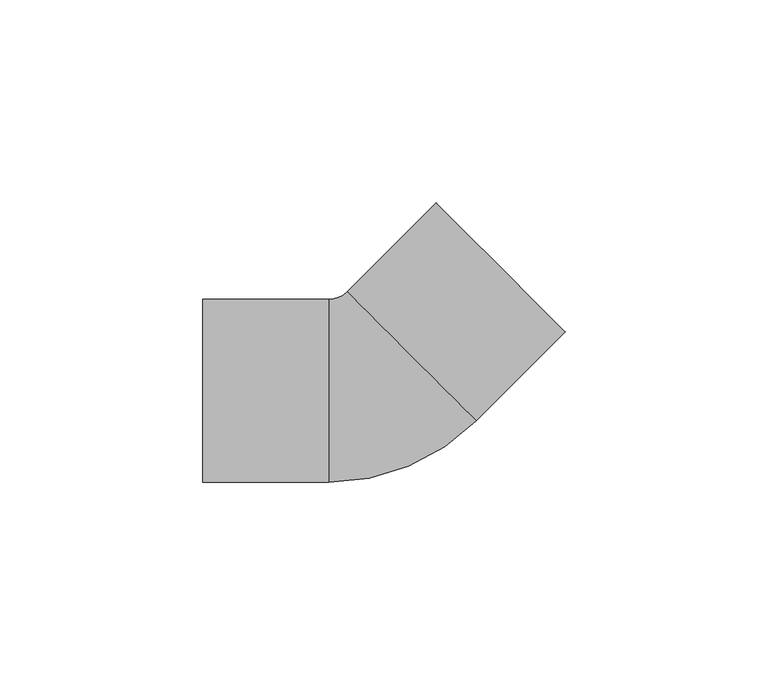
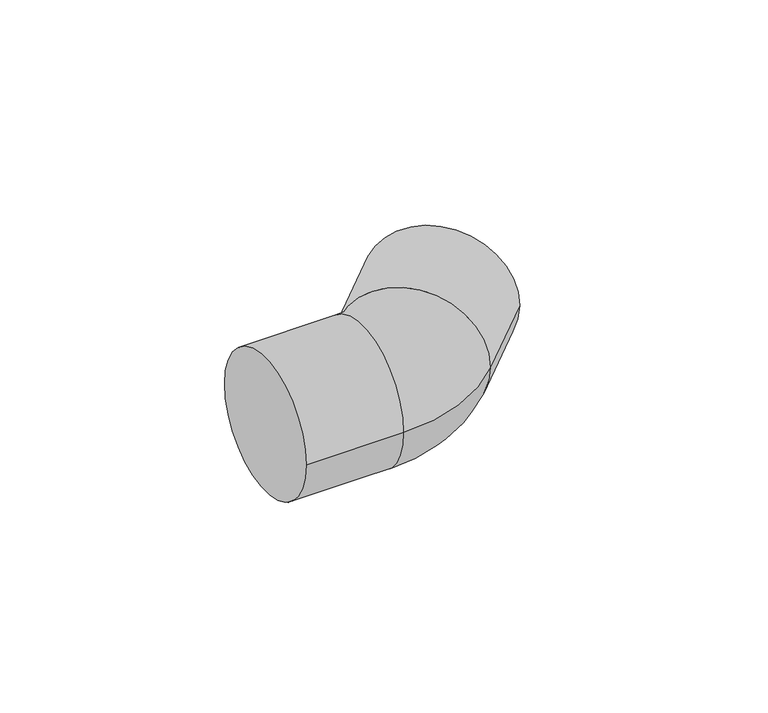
"""IFC4 building model written with IfcOpenShell, lengths in millimetres: pipe fitting geometry, 01051067 : Joelho a 45º."""

from ifc_helpers import new_model, si_unit, point, frame, origin, place, context, project, spatial, circle_curve, ellipse_curve, trimmed, source, transform, mapped, element, save
from ifc_brep_helpers import plane_surface, cylinder_surface, revolved_surface, advanced_brep


def pipe_fitting_5bd84670(model_context):
    return source(origin(), model_context, "Body", "AdvancedBrep", [
        advanced_brep(
        [(-43.0, -22.5, 0.0), (-43.0, 22.5, 0.0), (-12.0, -22.5, 0.0), (-12.0, 22.5, 0.0), (-7.4246212, 24.395184, 0.0), (24.395184, -7.4246212, 0.0), (46.3154942, 14.495689, 0.0), (14.495689, 46.3154942, 0.0)],
        [
            (0, 1, circle_curve(frame((-43.0, 0.0, 0.0), z_axis=(-1.0, 0.0, 0.0), x_axis=(0.0, 1.0, 0.0)), 22.5)),
            (1, 0, circle_curve(frame((-43.0, 0.0, 0.0), z_axis=(-1.0, 0.0, 0.0), x_axis=(0.0, 1.0, 0.0)), 22.5)),
            (0, 2),
            (2, 3, circle_curve(frame((-12.0, 0.0, 0.0), z_axis=(-1.0, 0.0, 0.0), x_axis=(0.0, 1.0, 0.0)), 22.5)),
            (3, 1),
            (3, 2, circle_curve(frame((-12.0, 0.0, 0.0), z_axis=(-1.0, 0.0, 0.0), x_axis=(0.0, 1.0, 0.0)), 22.5)),
            (4, 3, circle_curve(frame((-12.0, 28.9705627, 0.0), z_axis=(0.0, 0.0, -1.0), x_axis=(0.0, -1.0, 0.0)), 6.4705627)),
            (2, 5, circle_curve(frame((-12.0, 28.9705627, 0.0), z_axis=(0.0, 0.0, 1.0), x_axis=(0.0, -1.0, 0.0)), 51.4705627)),
            (5, 4, circle_curve(frame((8.4852814, 8.4852814, 0.0), z_axis=(-0.7071067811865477, -0.7071067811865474, 0.0), x_axis=(-0.7071067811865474, 0.7071067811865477, 0.0)), 22.5)),
            (4, 5, circle_curve(frame((8.4852814, 8.4852814, 0.0), z_axis=(-0.7071067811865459, -0.7071067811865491, 0.0), x_axis=(-0.7071067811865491, 0.7071067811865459, 0.0)), 22.5)),
            (6, 7, circle_curve(frame((30.4055916, 30.4055916, 0.0), z_axis=(0.7071067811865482, 0.7071067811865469, 0.0), x_axis=(-0.7071067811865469, 0.7071067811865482, 0.0)), 22.5)),
            (7, 6, circle_curve(frame((30.4055916, 30.4055916, 0.0), z_axis=(0.7071067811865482, 0.7071067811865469, 0.0), x_axis=(-0.7071067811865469, 0.7071067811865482, 0.0)), 22.5)),
            (5, 6),
            (7, 4),
        ],
        [
            plane_surface(frame((-43.0, 0.0, 0.0), z_axis=(-1.0, 0.0, 0.0), x_axis=(0.0, 0.0, 1.0))),
            cylinder_surface(frame((-43.0, 0.0, 0.0), z_axis=(-1.0, 0.0, 0.0), x_axis=(0.0, 1.0, 0.0)), 22.5),
            revolved_surface(trimmed(ellipse_curve(frame((-12.0, 0.0, 0.0), z_axis=(-1.0, 0.0, 0.0), x_axis=(0.0, 1.0, 0.0)), 22.5, 22.5), [point((-12.0, -22.5, 0.0))], [point((-12.0, 22.5, 0.0))], True, "CARTESIAN"), (-12.0, 28.9705627, 0.0), (0.0, 0.0, 1.0)),
            revolved_surface(trimmed(ellipse_curve(frame((-12.0, 0.0, 0.0), z_axis=(-1.0, 0.0, 0.0), x_axis=(0.0, 1.0, 0.0)), 22.5, 22.5), [point((-12.0, 22.5, 0.0))], [point((-12.0, -22.5, 0.0))], True, "CARTESIAN"), (-12.0, 28.9705627, 0.0), (0.0, 0.0, 1.0)),
            plane_surface(frame((30.4055916, 30.4055916, 0.0), z_axis=(0.7071067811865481, 0.7071067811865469, 0.0), x_axis=(0.0, 0.0, 1.0))),
            cylinder_surface(frame((8.4852814, 8.4852814, 0.0), z_axis=(-0.7071067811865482, -0.7071067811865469, 0.0), x_axis=(-0.7071067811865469, 0.7071067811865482, 0.0)), 22.5),
        ],
        [
            (0, [[1, 2]]),
            (1, [[-1, 3, 4, 5]]),
            (1, [[-2, -5, 6, -3]]),
            (2, [[7, -4, 8, 9]]),
            (3, [[-8, -6, -7, 10]]),
            (4, [[11, 12]]),
            (5, [[-9, 13, -12, 14]]),
            (5, [[-10, -14, -11, -13]]),
        ],
    ),
    ])


if __name__ == "__main__":
    model = new_model("IFC4")
    model_context = context("Model", 3, world=origin())
    ifc_project = project(units=[si_unit("LENGTHUNIT", "METRE", prefix="MILLI")], contexts=[model_context])
    site = spatial("IfcSite", under=ifc_project)
    building = spatial("IfcBuilding", under=site)
    placement = place(None, origin())
    pipe_fitting_shape = pipe_fitting_5bd84670(model_context)
    element("IfcPipeFitting", 1, ObjectType="01051067 : Joelho a 45º", at=placement, inside=building, context=model_context, shape_type="MappedRepresentation", body=[
        mapped(pipe_fitting_shape, transform((0.0, 0.0, 0.0), x_axis=(1.0, 0.0, 0.0), y_axis=(0.0, 1.0, 0.0), z_axis=(0.0, 0.0, 1.0))),
    ])
    save(model, "model.ifc")
